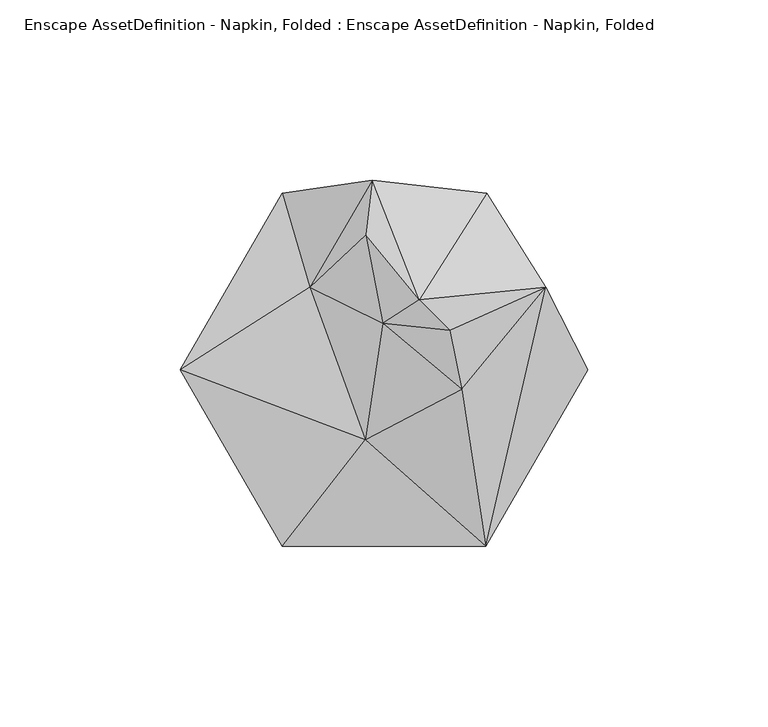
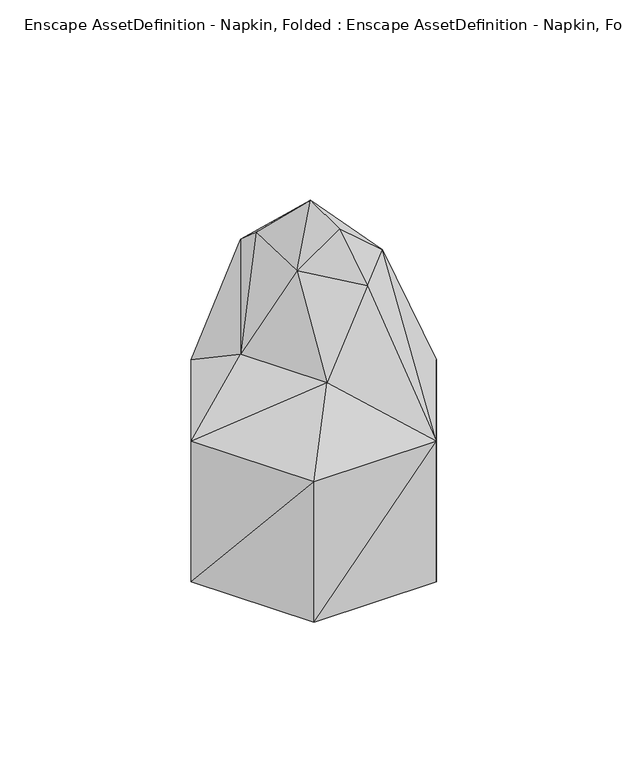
"""IFC4 building model written with IfcOpenShell, lengths in millimetres: geographic element geometry, Enscape AssetDefinition - Napkin, Folded : Enscape AssetDefinition - Napkin, Folded."""

from ifc_helpers import new_model, si_unit, origin, place, context, project, spatial, faceted_brep, source, transform, mapped, element, save


def enscape_assetdefinition_napkin_folded_enscape_c1d7dbe0(model_context):
    return source(origin(), model_context, "Body", "Brep", [
        faceted_brep([(56.5502048, 0.2024679, -0.0476395), (28.2712486, -48.7779565, -0.0476395), (-28.286662, -48.7779565, -0.0476395), (28.2712486, -48.7779565, 68.3444813), (56.5502048, 0.2024679, 68.3444813), (-28.286662, -48.7779565, 68.3444813), (-28.286662, 49.1835922, -0.0476395), (-56.5656126, 0.2024679, -0.0476395), (28.2712486, 49.1835922, 68.3444813), (28.2712486, 49.1835922, -0.0476395), (-28.286662, 49.1835922, 68.3444813), (-56.5656126, 0.2024679, 68.3444813), (-5.1499712, -19.2057304, 90.6958207), (-20.6384175, 23.1100693, 84.2189565), (-3.2794201, 52.8336205, 116.1962673), (28.4639094, 49.1835922, 112.1336073), (-5.0308728, 37.6296118, 129.4393539), (9.8326551, 19.694034, 150.7258117), (-0.3285725, 13.1737264, 123.8970608), (21.5232521, -5.2389451, 120.0186461), (18.2473343, 11.1840768, 139.0240192), (44.8315851, 23.1100693, 112.1336073)], [[[0, 1, 2]], [[3, 1, 4]], [[3, 2, 1]], [[4, 1, 0]], [[5, 2, 3]], [[6, 2, 7]], [[0, 2, 6]], [[5, 7, 2]], [[4, 0, 8]], [[0, 6, 9]], [[8, 0, 9]], [[10, 6, 11]], [[10, 9, 6]], [[11, 6, 7]], [[11, 7, 5]], [[12, 5, 3]], [[12, 11, 5]], [[13, 11, 12]], [[13, 10, 11]], [[8, 9, 10]], [[14, 10, 13]], [[14, 8, 10]], [[15, 8, 14]], [[15, 4, 8]], [[16, 14, 13]], [[17, 15, 14]], [[17, 14, 16]], [[16, 13, 18]], [[18, 13, 12]], [[18, 12, 19]], [[12, 3, 19]], [[18, 20, 17]], [[17, 16, 18]], [[18, 19, 20]], [[17, 20, 21]], [[17, 21, 15]], [[21, 4, 15]], [[21, 3, 4]], [[19, 3, 21]], [[20, 19, 21]]]),
    ])


if __name__ == "__main__":
    model = new_model("IFC4")
    model_context = context("Model", 3, world=origin())
    ifc_project = project(units=[si_unit("LENGTHUNIT", "METRE", prefix="MILLI")], contexts=[model_context])
    site = spatial("IfcSite", under=ifc_project)
    building = spatial("IfcBuilding", under=site)
    placement = place(None, origin())
    enscape_assetdefinition_napkin_folded_enscape_shape = enscape_assetdefinition_napkin_folded_enscape_c1d7dbe0(model_context)
    element("IfcGeographicElement", 1, ObjectType="Enscape AssetDefinition - Napkin, Folded : Enscape AssetDefinition - Napkin, Folded", at=placement, inside=building, context=model_context, shape_type="MappedRepresentation", body=[
        mapped(enscape_assetdefinition_napkin_folded_enscape_shape, transform((0.0, 0.0, 0.0), x_axis=(1.0, 0.0, 0.0), y_axis=(0.0, 1.0, 0.0), z_axis=(0.0, 0.0, 1.0))),
    ])
    save(model, "model.ifc")
